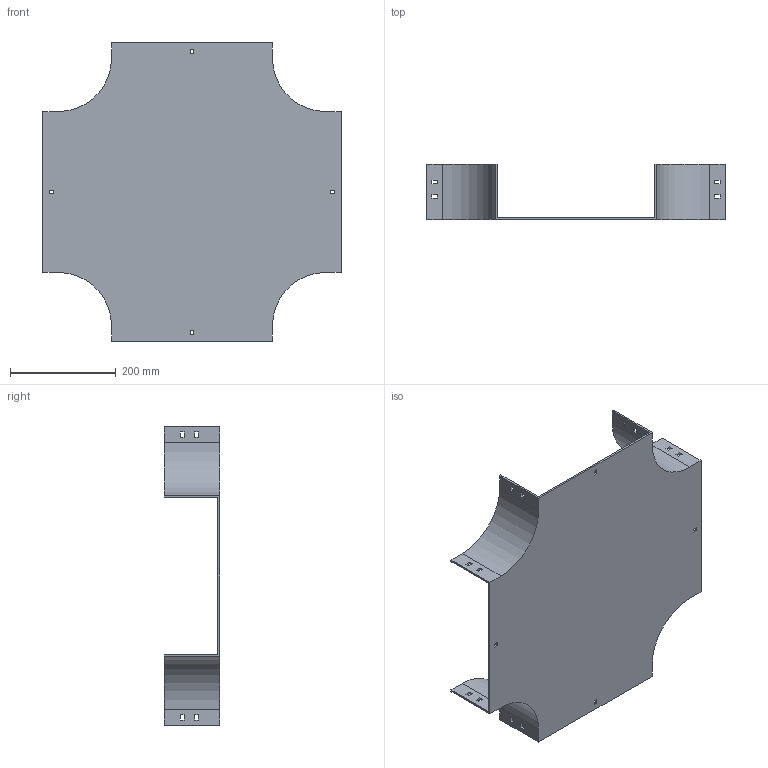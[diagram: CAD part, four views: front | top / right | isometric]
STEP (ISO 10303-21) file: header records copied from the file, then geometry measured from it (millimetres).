
FILE_DESCRIPTION (( 'STEP AP214' ), '1' );
FILE_NAME ('17F1D300.step', '2025-02-21T13:05:14', ( '' ), ( '' ), 'SwSTEP 2.0', 'SolidWorks 2023', '' );
FILE_SCHEMA (( 'AUTOMOTIVE_DESIGN' ));
Length unit declared in the file: millimetre
Products named in the file (1): 17F1D300
Bounding box: 564 x 104 x 564 mm (x, y, z)
Volume: 1211340 mm3; surface area: 704641.4 mm2
Topology: 1 solids, 1 shells, 114 faces, 336 edges, 224 vertices
Faces by surface type: plane 106, cylinder 8
Entity records: 3839 total; most frequent: CARTESIAN_POINT 675, ORIENTED_EDGE 672, DIRECTION 582, EDGE_CURVE 336, LINE 320, VECTOR 320, VERTEX_POINT 224, EDGE_LOOP 154
